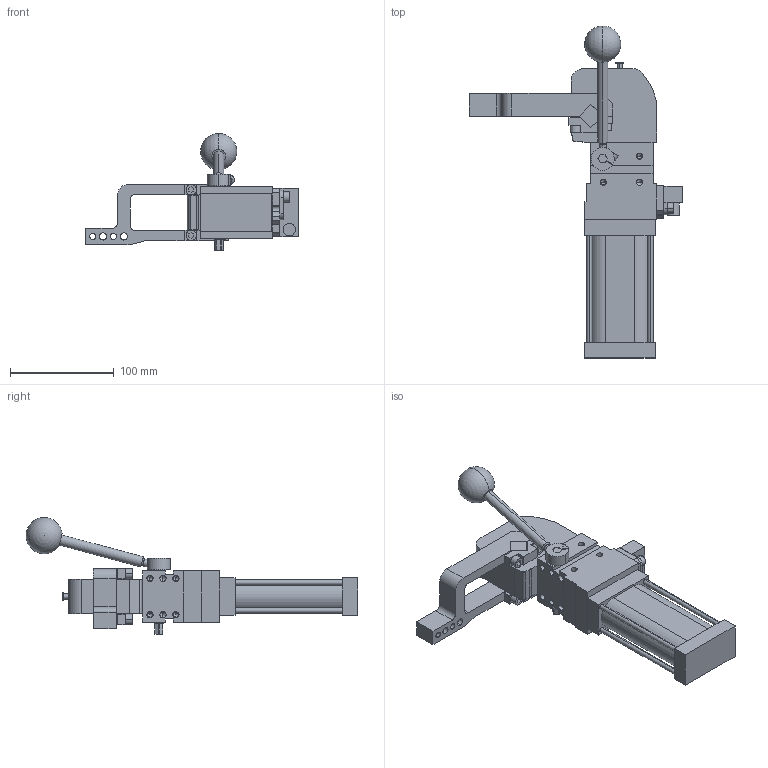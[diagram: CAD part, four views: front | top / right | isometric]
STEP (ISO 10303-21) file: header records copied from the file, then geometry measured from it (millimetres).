
FILE_DESCRIPTION (( 'STEP AP214' ), '1' );
FILE_NAME ('cplm40lav2di1g_108.STEP', '2021-05-25T12:23:29', ( '' ), ( '' ), 'SwSTEP 2.0', 'SolidWorks 2021', '' );
FILE_SCHEMA (( 'AUTOMOTIVE_DESIGN' ));
Length unit declared in the file: millimetre
Products named in the file (6): piastra_blocchetto_cpl40; leva_v2d_cpl40; meccanica_cplm40; cplm40lav2di1g_108; comando_manuale_cplm_40; blocchetto_VEP_0_cpl40
Assembly tree (5 placements, depth 2):
  cplm40lav2di1g_108
    meccanica_cplm40
    leva_v2d_cpl40
    blocchetto_VEP_0_cpl40
    piastra_blocchetto_cpl40
    comando_manuale_cplm_40
Bounding box: 205.5 x 319.99 x 112.66 mm (x, y, z)
Volume: 801141.7 mm3; surface area: 125252.2 mm2
Topology: 6 solids, 6 shells, 485 faces, 1243 edges, 785 vertices
Faces by surface type: plane 283, cylinder 154, cone 46, sphere 2
Entity records: 16007 total; most frequent: CARTESIAN_POINT 2589, DIRECTION 2542, ORIENTED_EDGE 2392, EDGE_CURVE 1196, AXIS2_PLACEMENT_3D 857, LINE 828, VECTOR 828, VERTEX_POINT 782
